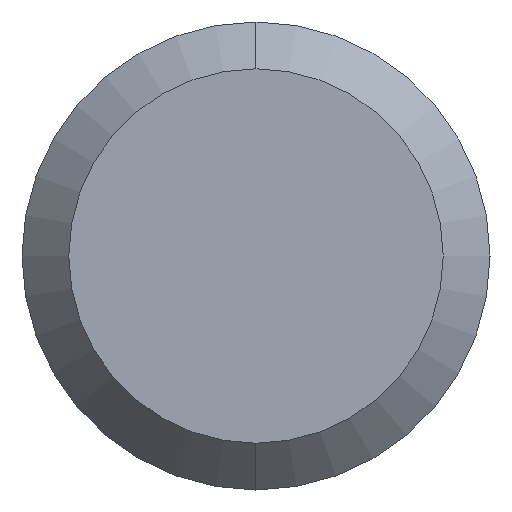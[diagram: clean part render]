
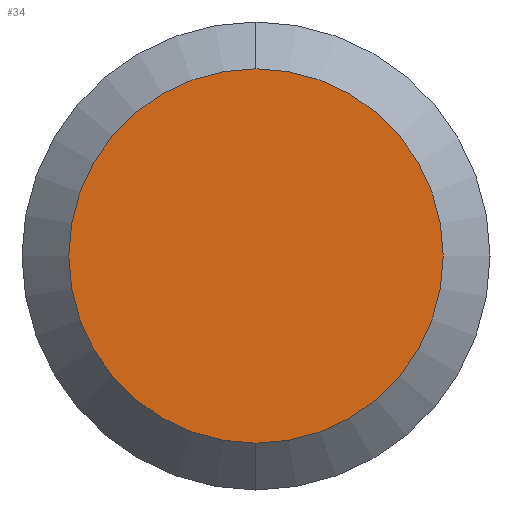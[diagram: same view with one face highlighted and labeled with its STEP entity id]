
A CAD part, left-side view. The second image highlights one B-rep face of the part: STEP entity #34.
In plain terms, the highlighted planar face has unit normal (-1, 0, 0).
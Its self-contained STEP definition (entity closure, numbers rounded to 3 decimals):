
#6 = VERTEX_POINT ( 'NONE', #59 ) ;
#11 = AXIS2_PLACEMENT_3D ( 'NONE', #157, #182, #185 ) ;
#34 = ADVANCED_FACE ( 'NONE', ( #82 ), #84, .F. ) ;
#38 = ORIENTED_EDGE ( 'NONE', *, *, #338, .T. ) ;
#42 = AXIS2_PLACEMENT_3D ( 'NONE', #276, #270, #145 ) ;
#59 = CARTESIAN_POINT ( 'NONE',  ( 0., 0., -4.8 ) ) ;
#62 = AXIS2_PLACEMENT_3D ( 'NONE', #142, #168, #91 ) ;
#78 = CIRCLE ( 'NONE', #11, 4.8 ) ;
#82 = FACE_OUTER_BOUND ( 'NONE', #333, .T. ) ;
#84 = PLANE ( 'NONE',  #42 ) ;
#90 = EDGE_CURVE ( 'NONE', #217, #6, #249, .T. ) ;
#91 = DIRECTION ( 'NONE',  ( 0., 0., 1. ) ) ;
#142 = CARTESIAN_POINT ( 'NONE',  ( 0., 0., 0. ) ) ;
#145 = DIRECTION ( 'NONE',  ( 0., 0., -1. ) ) ;
#157 = CARTESIAN_POINT ( 'NONE',  ( 0., 0., 0. ) ) ;
#168 = DIRECTION ( 'NONE',  ( -1., 0., 0. ) ) ;
#182 = DIRECTION ( 'NONE',  ( -1., 0., 0. ) ) ;
#185 = DIRECTION ( 'NONE',  ( 0., 0., 1. ) ) ;
#217 = VERTEX_POINT ( 'NONE', #281 ) ;
#249 = CIRCLE ( 'NONE', #62, 4.8 ) ;
#270 = DIRECTION ( 'NONE',  ( 1., 0., 0. ) ) ;
#272 = ORIENTED_EDGE ( 'NONE', *, *, #90, .T. ) ;
#276 = CARTESIAN_POINT ( 'NONE',  ( 0., 4.8, 0. ) ) ;
#281 = CARTESIAN_POINT ( 'NONE',  ( 0., 0., 4.8 ) ) ;
#333 = EDGE_LOOP ( 'NONE', ( #38, #272 ) ) ;
#338 = EDGE_CURVE ( 'NONE', #6, #217, #78, .T. ) ;
